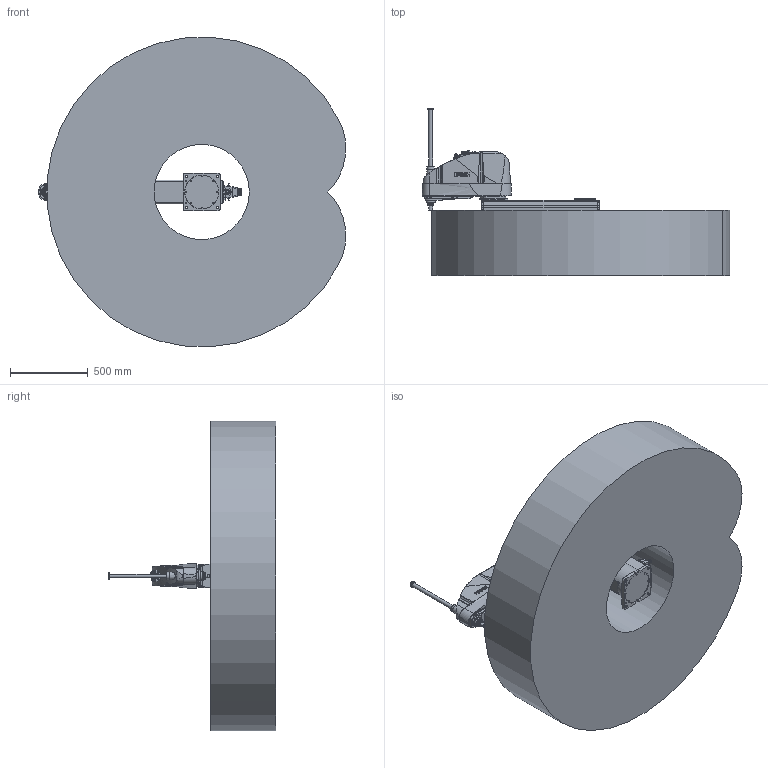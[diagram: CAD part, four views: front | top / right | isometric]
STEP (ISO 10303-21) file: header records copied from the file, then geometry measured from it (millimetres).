
FILE_DESCRIPTION( ( 'STEP AP214' ), '1' );
FILE_NAME( 'C:/Users/9607552/Desktop/GX20-BA04S_straight.stp', '2023-08-01T09:41:05', ( '' ), ( '' ), ' ', 'PARTsolutions', ' ' );
FILE_SCHEMA( ( 'AUTOMOTIVE_DESIGN { 1 0 10303 214 1 1 1 1 }' ) );
Length unit declared in the file: millimetre
Products named in the file (7): GX20-BA04SS-W; _Base s; _Straight-B; _J1 Arm GX10-600; _J2 Arm GX10-s; _J3 Arm GX10-s (4); _GX10_20B-24_4
Assembly tree (6 placements, depth 2):
  GX20-BA04SS-W
    _Base s
    _Straight-B
    _J1 Arm GX10-600
    _J2 Arm GX10-s
    _J3 Arm GX10-s (4)
    _GX10_20B-24_4
Bounding box: 1985.18 x 1080 x 1997.01 mm (x, y, z)
Volume: 1214221490.7 mm3; surface area: 10533201.3 mm2
Topology: 6 solids, 6 shells, 2417 faces, 5906 edges, 3849 vertices
Faces by surface type: plane 1251, cylinder 740, cone 328, torus 65, bspline 32, sphere 1
Full cylindrical faces by diameter (mm): 1 x24, 1.18 x55, 3 x32, 3.242 x10, 3.3 x4, 4.2 x4, 4.8 x4, 5.1 x4, 5.25 x2, 5.34 x4, 5.4 x5, 5.5 x12, 6 x1, 6.2 x4, 6.647 x2, 7 x31, 8 x9, 8.5 x2, 9 x4, 10 x32, 11 x14, 12 x6, 12.25 x1, 13 x2, 14 x8, 14.25 x1, 16 x6, 18 x1, 20.4 x1, 21.7 x2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
Entity records: 91711 total; most frequent: CARTESIAN_POINT 17747, DIRECTION 11248, ORIENTED_EDGE 10502, EDGE_CURVE 5251, AXIS2_PLACEMENT_3D 4329, VERTEX_POINT 3764, EDGE_LOOP 3361, FACE_OUTER_BOUND 2780
